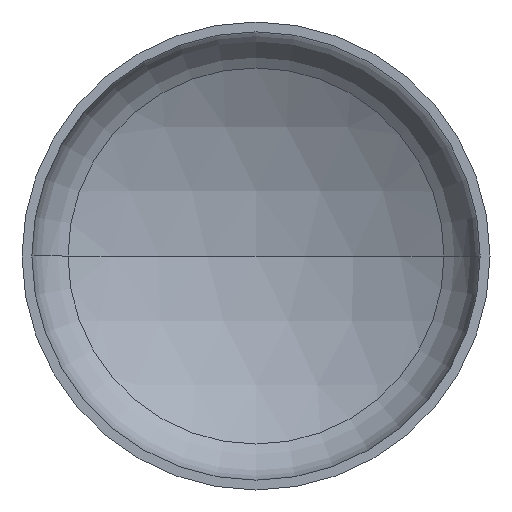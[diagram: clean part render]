
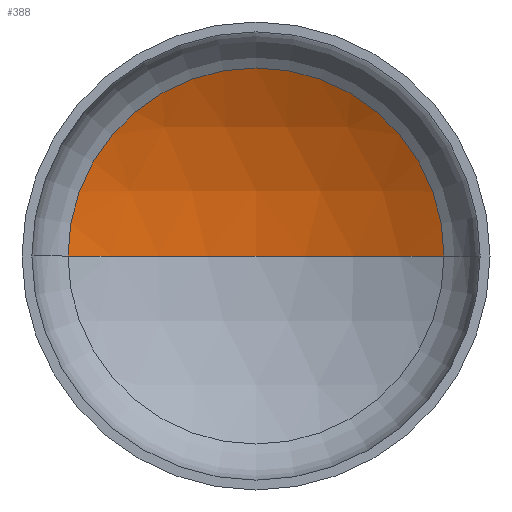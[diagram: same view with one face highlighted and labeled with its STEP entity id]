
A CAD part, front view. The second image highlights one B-rep face of the part: STEP entity #388.
In plain terms, the highlighted spherical face has radius 800 mm.
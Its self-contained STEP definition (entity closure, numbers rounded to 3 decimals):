
#8 = AXIS2_PLACEMENT_3D ( 'NONE', #408, #270, #90 ) ;
#18 = AXIS2_PLACEMENT_3D ( 'NONE', #317, #259, #44 ) ;
#23 = EDGE_LOOP ( 'NONE', ( #143, #129, #128 ) ) ;
#33 = CIRCLE ( 'NONE', #8, 800. ) ;
#36 = VERTEX_POINT ( 'NONE', #280 ) ;
#44 = DIRECTION ( 'NONE',  ( 1., 0., 0. ) ) ;
#90 = DIRECTION ( 'NONE',  ( 1., 0., 0. ) ) ;
#97 = VERTEX_POINT ( 'NONE', #296 ) ;
#128 = ORIENTED_EDGE ( 'NONE', *, *, #345, .T. ) ;
#129 = ORIENTED_EDGE ( 'NONE', *, *, #377, .T. ) ;
#138 = VERTEX_POINT ( 'NONE', #303 ) ;
#141 = DIRECTION ( 'NONE',  ( -1., 0., 0. ) ) ;
#143 = ORIENTED_EDGE ( 'NONE', *, *, #374, .F. ) ;
#179 = CIRCLE ( 'NONE', #275, 800. ) ;
#192 = DIRECTION ( 'NONE',  ( 0., 0., -1. ) ) ;
#221 = DIRECTION ( 'NONE',  ( -1., 0., 0. ) ) ;
#234 = SPHERICAL_SURFACE ( 'NONE', #344, 800. ) ;
#259 = DIRECTION ( 'NONE',  ( 0., -1., 0. ) ) ;
#270 = DIRECTION ( 'NONE',  ( 0., 0., 1. ) ) ;
#275 = AXIS2_PLACEMENT_3D ( 'NONE', #366, #369, #221 ) ;
#280 = CARTESIAN_POINT ( 'NONE',  ( -401.86, 204.025, 0. ) ) ;
#296 = CARTESIAN_POINT ( 'NONE',  ( 0., 312.282, 0. ) ) ;
#299 = FACE_OUTER_BOUND ( 'NONE', #23, .T. ) ;
#303 = CARTESIAN_POINT ( 'NONE',  ( 401.86, 204.025, 0. ) ) ;
#317 = CARTESIAN_POINT ( 'NONE',  ( 0., 204.025, 0. ) ) ;
#320 = CARTESIAN_POINT ( 'NONE',  ( 0., -487.718, 0. ) ) ;
#344 = AXIS2_PLACEMENT_3D ( 'NONE', #320, #192, #141 ) ;
#345 = EDGE_CURVE ( 'NONE', #138, #36, #379, .T. ) ;
#366 = CARTESIAN_POINT ( 'NONE',  ( 0., -487.718, 0. ) ) ;
#369 = DIRECTION ( 'NONE',  ( 0., 0., -1. ) ) ;
#374 = EDGE_CURVE ( 'NONE', #97, #36, #33, .T. ) ;
#377 = EDGE_CURVE ( 'NONE', #97, #138, #179, .T. ) ;
#379 = CIRCLE ( 'NONE', #18, 401.86 ) ;
#388 = ADVANCED_FACE ( 'NONE', ( #299 ), #234, .F. ) ;
#408 = CARTESIAN_POINT ( 'NONE',  ( 0., -487.718, 0. ) ) ;
